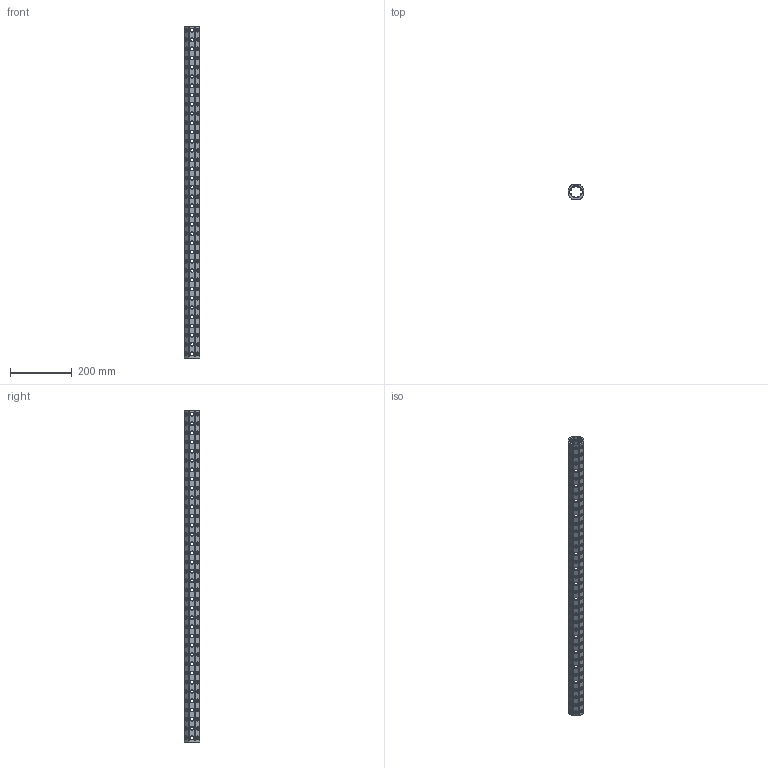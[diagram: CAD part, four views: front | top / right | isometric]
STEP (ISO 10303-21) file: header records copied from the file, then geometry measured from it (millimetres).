
FILE_DESCRIPTION(('CATIA V5 STEP Exchange'),'2;1');
FILE_NAME('U:\Room\唐宝山\EGT002\46-01-010265-01-EGT002-1078.stp','2021-08-24T01:14:54+00:00',('none'),('none'),'CATIA Version 5 Release 21 GA (IN-10)','CATIA V5 STEP AP203','none');
FILE_SCHEMA(('CONFIG_CONTROL_DESIGN'));
Products named in the file (1): 46-01-010265-01-EGT002-1078
Bounding box: 50 x 50 x 1078 mm (x, y, z)
Volume: 767946.3 mm3; surface area: 371067.8 mm2
Topology: 1 solids, 1 shells, 1524 faces, 4206 edges, 2612 vertices
Faces by surface type: cone 864, cylinder 634, plane 26
Entity records: 61675 total; most frequent: CARTESIAN_POINT 24646, ORIENTED_EDGE 8412, DIRECTION 5980, EDGE_CURVE 4206, AXIS2_PLACEMENT_3D 2815, VERTEX_POINT 2612, EDGE_LOOP 2030, VECTOR 1642
